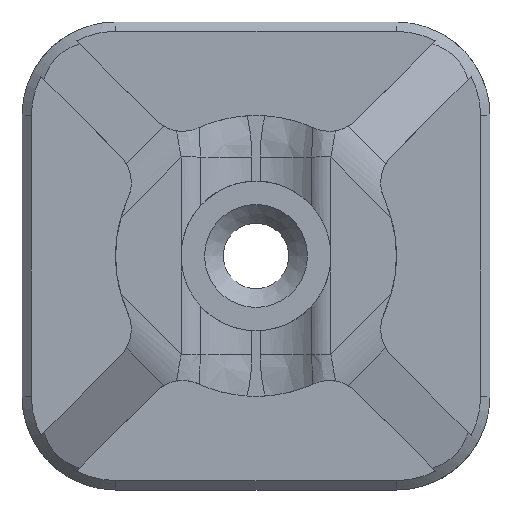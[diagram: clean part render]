
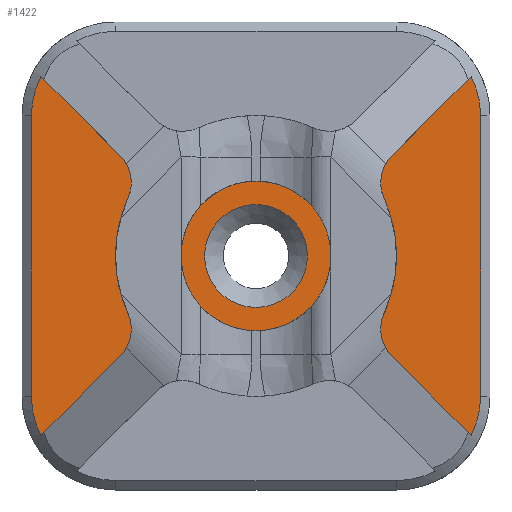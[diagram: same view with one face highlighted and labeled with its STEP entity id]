
A CAD part, top view. The second image highlights one B-rep face of the part: STEP entity #1422.
In plain terms, the highlighted planar face has unit normal (0, 0, 1).
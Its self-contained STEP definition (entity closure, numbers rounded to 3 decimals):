
#88=CIRCLE('',#1518,7.5);
#90=CIRCLE('',#1520,7.5);
#91=CIRCLE('',#1522,4.);
#93=CIRCLE('',#1524,4.);
#98=CIRCLE('',#1531,7.5);
#100=CIRCLE('',#1533,7.5);
#101=CIRCLE('',#1539,2.75);
#102=CIRCLE('',#1540,2.);
#103=CIRCLE('',#1541,2.);
#104=CIRCLE('',#1542,2.);
#105=CIRCLE('',#1543,2.);
#152=B_SPLINE_CURVE_WITH_KNOTS('',3,(#2285,#2286,#2287,#2288),
 .UNSPECIFIED.,.F.,.F.,(4,4),(0.,1.),.UNSPECIFIED.);
#153=B_SPLINE_CURVE_WITH_KNOTS('',3,(#2299,#2300,#2301,#2302),
 .UNSPECIFIED.,.F.,.F.,(4,4),(0.,1.),.UNSPECIFIED.);
#154=B_SPLINE_CURVE_WITH_KNOTS('',3,(#2306,#2307,#2308,#2309),
 .UNSPECIFIED.,.F.,.F.,(4,4),(0.,1.),.UNSPECIFIED.);
#155=B_SPLINE_CURVE_WITH_KNOTS('',3,(#2320,#2321,#2322,#2323),
 .UNSPECIFIED.,.F.,.F.,(4,4),(0.,1.),.UNSPECIFIED.);
#299=ORIENTED_EDGE('',*,*,#746,.T.);
#300=ORIENTED_EDGE('',*,*,#747,.T.);
#301=ORIENTED_EDGE('',*,*,#748,.T.);
#302=ORIENTED_EDGE('',*,*,#749,.F.);
#303=ORIENTED_EDGE('',*,*,#750,.T.);
#304=ORIENTED_EDGE('',*,*,#691,.T.);
#305=ORIENTED_EDGE('',*,*,#751,.T.);
#306=ORIENTED_EDGE('',*,*,#698,.T.);
#307=ORIENTED_EDGE('',*,*,#752,.T.);
#308=ORIENTED_EDGE('',*,*,#723,.T.);
#309=ORIENTED_EDGE('',*,*,#753,.T.);
#310=ORIENTED_EDGE('',*,*,#754,.F.);
#311=ORIENTED_EDGE('',*,*,#755,.T.);
#312=ORIENTED_EDGE('',*,*,#756,.T.);
#313=ORIENTED_EDGE('',*,*,#757,.T.);
#314=ORIENTED_EDGE('',*,*,#758,.F.);
#315=ORIENTED_EDGE('',*,*,#759,.T.);
#316=ORIENTED_EDGE('',*,*,#729,.T.);
#317=ORIENTED_EDGE('',*,*,#760,.F.);
#318=ORIENTED_EDGE('',*,*,#692,.T.);
#319=ORIENTED_EDGE('',*,*,#761,.F.);
#320=ORIENTED_EDGE('',*,*,#685,.T.);
#321=ORIENTED_EDGE('',*,*,#762,.T.);
#322=ORIENTED_EDGE('',*,*,#763,.F.);
#323=ORIENTED_EDGE('',*,*,#764,.T.);
#685=EDGE_CURVE('',#909,#908,#88,.T.);
#691=EDGE_CURVE('',#903,#914,#90,.T.);
#692=EDGE_CURVE('',#915,#916,#91,.T.);
#698=EDGE_CURVE('',#922,#921,#93,.T.);
#723=EDGE_CURVE('',#945,#944,#98,.T.);
#729=EDGE_CURVE('',#941,#950,#100,.T.);
#746=EDGE_CURVE('',#967,#967,#101,.T.);
#747=EDGE_CURVE('',#968,#969,#1062,.T.);
#748=EDGE_CURVE('',#969,#970,#152,.T.);
#749=EDGE_CURVE('',#971,#970,#1063,.T.);
#750=EDGE_CURVE('',#971,#903,#102,.F.);
#751=EDGE_CURVE('',#914,#922,#1064,.T.);
#752=EDGE_CURVE('',#921,#945,#1065,.T.);
#753=EDGE_CURVE('',#944,#972,#103,.F.);
#754=EDGE_CURVE('',#973,#972,#1066,.T.);
#755=EDGE_CURVE('',#973,#974,#153,.T.);
#756=EDGE_CURVE('',#974,#975,#1067,.T.);
#757=EDGE_CURVE('',#975,#976,#154,.T.);
#758=EDGE_CURVE('',#977,#976,#1068,.T.);
#759=EDGE_CURVE('',#977,#941,#104,.F.);
#760=EDGE_CURVE('',#915,#950,#1069,.T.);
#761=EDGE_CURVE('',#909,#916,#1070,.T.);
#762=EDGE_CURVE('',#908,#978,#105,.F.);
#763=EDGE_CURVE('',#979,#978,#1071,.T.);
#764=EDGE_CURVE('',#979,#968,#155,.T.);
#903=VERTEX_POINT('',#2065);
#908=VERTEX_POINT('',#2080);
#909=VERTEX_POINT('',#2082);
#914=VERTEX_POINT('',#2100);
#915=VERTEX_POINT('',#2104);
#916=VERTEX_POINT('',#2105);
#921=VERTEX_POINT('',#2124);
#922=VERTEX_POINT('',#2126);
#941=VERTEX_POINT('',#2209);
#944=VERTEX_POINT('',#2221);
#945=VERTEX_POINT('',#2223);
#950=VERTEX_POINT('',#2241);
#967=VERTEX_POINT('',#2281);
#968=VERTEX_POINT('',#2283);
#969=VERTEX_POINT('',#2284);
#970=VERTEX_POINT('',#2289);
#971=VERTEX_POINT('',#2291);
#972=VERTEX_POINT('',#2296);
#973=VERTEX_POINT('',#2298);
#974=VERTEX_POINT('',#2303);
#975=VERTEX_POINT('',#2305);
#976=VERTEX_POINT('',#2310);
#977=VERTEX_POINT('',#2312);
#978=VERTEX_POINT('',#2317);
#979=VERTEX_POINT('',#2319);
#1062=LINE('',#2282,#1154);
#1063=LINE('',#2290,#1155);
#1064=LINE('',#2293,#1156);
#1065=LINE('',#2294,#1157);
#1066=LINE('',#2297,#1158);
#1067=LINE('',#2304,#1159);
#1068=LINE('',#2311,#1160);
#1069=LINE('',#2314,#1161);
#1070=LINE('',#2315,#1162);
#1071=LINE('',#2318,#1163);
#1154=VECTOR('',#1742,1000.);
#1155=VECTOR('',#1743,1000.);
#1156=VECTOR('',#1746,1000.);
#1157=VECTOR('',#1747,1000.);
#1158=VECTOR('',#1750,1000.);
#1159=VECTOR('',#1751,1000.);
#1160=VECTOR('',#1752,1000.);
#1161=VECTOR('',#1755,1000.);
#1162=VECTOR('',#1756,1000.);
#1163=VECTOR('',#1759,1000.);
#1217=EDGE_LOOP('',(#299));
#1218=EDGE_LOOP('',(#300,#301,#302,#303,#304,#305,#306,#307,#308,#309,#310,
#311,#312,#313,#314,#315,#316,#317,#318,#319,#320,#321,#322,#323));
#1303=FACE_BOUND('',#1217,.T.);
#1304=FACE_BOUND('',#1218,.T.);
#1383=PLANE('',#1538);
#1422=ADVANCED_FACE('',(#1303,#1304),#1383,.F.);
#1518=AXIS2_PLACEMENT_3D('',#2081,#1668,#1669);
#1520=AXIS2_PLACEMENT_3D('',#2101,#1674,#1675);
#1522=AXIS2_PLACEMENT_3D('',#2103,#1678,#1679);
#1524=AXIS2_PLACEMENT_3D('',#2125,#1684,#1685);
#1531=AXIS2_PLACEMENT_3D('',#2222,#1706,#1707);
#1533=AXIS2_PLACEMENT_3D('',#2242,#1712,#1713);
#1538=AXIS2_PLACEMENT_3D('',#2279,#1738,#1739);
#1539=AXIS2_PLACEMENT_3D('',#2280,#1740,#1741);
#1540=AXIS2_PLACEMENT_3D('',#2292,#1744,#1745);
#1541=AXIS2_PLACEMENT_3D('',#2295,#1748,#1749);
#1542=AXIS2_PLACEMENT_3D('',#2313,#1753,#1754);
#1543=AXIS2_PLACEMENT_3D('',#2316,#1757,#1758);
#1668=DIRECTION('',(0.,0.,-1.));
#1669=DIRECTION('',(0.,-1.,0.));
#1674=DIRECTION('',(0.,0.,-1.));
#1675=DIRECTION('',(0.,-1.,0.));
#1678=DIRECTION('',(0.,0.,1.));
#1679=DIRECTION('',(-1.,0.,0.));
#1684=DIRECTION('',(0.,0.,1.));
#1685=DIRECTION('',(-1.,0.,0.));
#1706=DIRECTION('',(0.,0.,-1.));
#1707=DIRECTION('',(0.,-1.,0.));
#1712=DIRECTION('',(0.,0.,-1.));
#1713=DIRECTION('',(0.,-1.,0.));
#1738=DIRECTION('',(0.,0.,-1.));
#1739=DIRECTION('',(-1.,0.,0.));
#1740=DIRECTION('',(0.,0.,-1.));
#1741=DIRECTION('',(-1.,0.,0.));
#1742=DIRECTION('',(0.,1.,0.));
#1743=DIRECTION('',(0.707,0.707,0.));
#1744=DIRECTION('',(0.,0.,-1.));
#1745=DIRECTION('',(-1.,0.,0.));
#1746=DIRECTION('',(-1.,0.,0.));
#1747=DIRECTION('',(-1.,0.,0.));
#1748=DIRECTION('',(0.,0.,-1.));
#1749=DIRECTION('',(-1.,0.,0.));
#1750=DIRECTION('',(0.707,-0.707,0.));
#1751=DIRECTION('',(0.,-1.,0.));
#1752=DIRECTION('',(-0.707,-0.707,0.));
#1753=DIRECTION('',(0.,0.,-1.));
#1754=DIRECTION('',(-1.,0.,0.));
#1755=DIRECTION('',(-1.,0.,0.));
#1756=DIRECTION('',(-1.,0.,0.));
#1757=DIRECTION('',(0.,0.,-1.));
#1758=DIRECTION('',(-1.,0.,0.));
#1759=DIRECTION('',(-0.707,0.707,0.));
#2065=CARTESIAN_POINT('',(6.833,3.093,2.));
#2080=CARTESIAN_POINT('',(6.833,-3.093,2.));
#2081=CARTESIAN_POINT('',(0.,0.,2.));
#2082=CARTESIAN_POINT('',(6.874,-3.,2.));
#2100=CARTESIAN_POINT('',(6.874,3.,2.));
#2101=CARTESIAN_POINT('',(0.,0.,2.));
#2103=CARTESIAN_POINT('',(0.,0.,2.));
#2104=CARTESIAN_POINT('',(-2.646,-3.,2.));
#2105=CARTESIAN_POINT('',(2.646,-3.,2.));
#2124=CARTESIAN_POINT('',(-2.646,3.,2.));
#2125=CARTESIAN_POINT('',(0.,0.,2.));
#2126=CARTESIAN_POINT('',(2.646,3.,2.));
#2209=CARTESIAN_POINT('',(-6.833,-3.093,2.));
#2221=CARTESIAN_POINT('',(-6.833,3.093,2.));
#2222=CARTESIAN_POINT('',(0.,0.,2.));
#2223=CARTESIAN_POINT('',(-6.874,3.,2.));
#2241=CARTESIAN_POINT('',(-6.874,-3.,2.));
#2242=CARTESIAN_POINT('',(0.,0.,2.));
#2279=CARTESIAN_POINT('',(0.,0.,2.));
#2280=CARTESIAN_POINT('',(0.,0.,2.));
#2281=CARTESIAN_POINT('',(-2.75,0.,2.));
#2282=CARTESIAN_POINT('',(12.,7.5,2.));
#2283=CARTESIAN_POINT('',(12.,-7.5,2.));
#2284=CARTESIAN_POINT('',(12.,7.5,2.));
#2285=CARTESIAN_POINT('',(12.,7.5,2.));
#2286=CARTESIAN_POINT('',(12.,8.241,2.));
#2287=CARTESIAN_POINT('',(11.83,8.934,2.));
#2288=CARTESIAN_POINT('',(11.49,9.581,2.));
#2289=CARTESIAN_POINT('',(11.49,9.581,2.));
#2290=CARTESIAN_POINT('',(5.57,3.66,2.));
#2291=CARTESIAN_POINT('',(7.241,5.331,2.));
#2292=CARTESIAN_POINT('',(8.655,3.917,2.));
#2293=CARTESIAN_POINT('',(12.5,3.,2.));
#2294=CARTESIAN_POINT('',(12.5,3.,2.));
#2295=CARTESIAN_POINT('',(-8.655,3.917,2.));
#2296=CARTESIAN_POINT('',(-7.241,5.331,2.));
#2297=CARTESIAN_POINT('',(-11.721,9.812,2.));
#2298=CARTESIAN_POINT('',(-11.49,9.581,2.));
#2299=CARTESIAN_POINT('',(-11.49,9.581,2.));
#2300=CARTESIAN_POINT('',(-11.824,8.944,2.));
#2301=CARTESIAN_POINT('',(-11.994,8.251,2.));
#2302=CARTESIAN_POINT('',(-12.,7.5,2.));
#2303=CARTESIAN_POINT('',(-12.,7.5,2.));
#2304=CARTESIAN_POINT('',(-12.,-7.5,2.));
#2305=CARTESIAN_POINT('',(-12.,-7.5,2.));
#2306=CARTESIAN_POINT('',(-12.,-7.5,2.));
#2307=CARTESIAN_POINT('',(-12.,-8.241,2.));
#2308=CARTESIAN_POINT('',(-11.83,-8.934,2.));
#2309=CARTESIAN_POINT('',(-11.49,-9.581,2.));
#2310=CARTESIAN_POINT('',(-11.49,-9.581,2.));
#2311=CARTESIAN_POINT('',(-5.57,-3.66,2.));
#2312=CARTESIAN_POINT('',(-7.241,-5.331,2.));
#2313=CARTESIAN_POINT('',(-8.655,-3.917,2.));
#2314=CARTESIAN_POINT('',(12.5,-3.,2.));
#2315=CARTESIAN_POINT('',(12.5,-3.,2.));
#2316=CARTESIAN_POINT('',(8.655,-3.917,2.));
#2317=CARTESIAN_POINT('',(7.241,-5.331,2.));
#2318=CARTESIAN_POINT('',(11.721,-9.812,2.));
#2319=CARTESIAN_POINT('',(11.49,-9.581,2.));
#2320=CARTESIAN_POINT('',(11.49,-9.581,2.));
#2321=CARTESIAN_POINT('',(11.824,-8.944,2.));
#2322=CARTESIAN_POINT('',(11.994,-8.251,2.));
#2323=CARTESIAN_POINT('',(12.,-7.5,2.));
